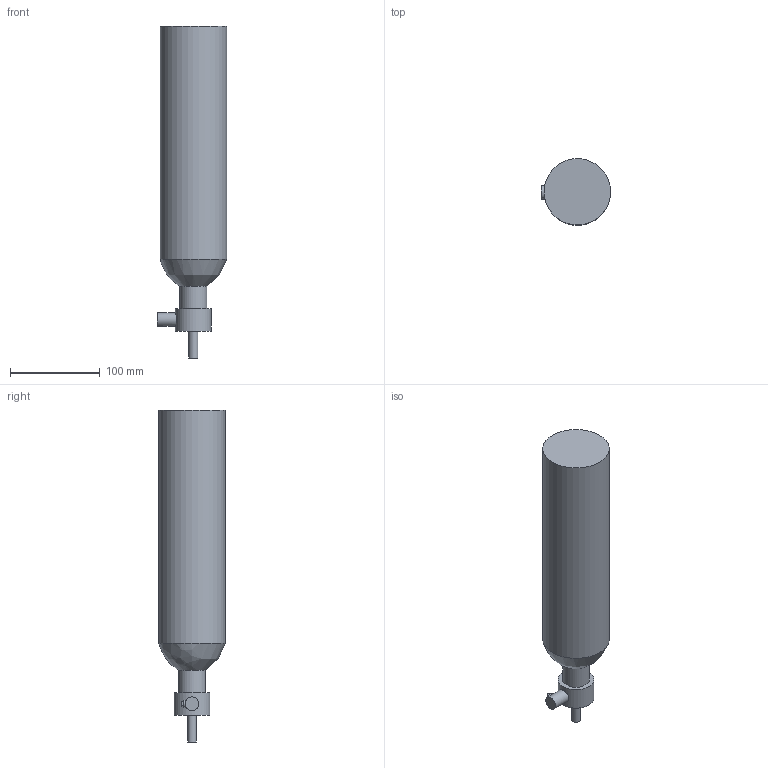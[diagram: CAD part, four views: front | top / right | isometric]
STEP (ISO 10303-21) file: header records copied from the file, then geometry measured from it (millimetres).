
FILE_DESCRIPTION(/* description */ (''),/* implementation_level */ '2;1');
FILE_NAME(/* name */ 'D:\OneDrive - Vysoké učení technické v Brně\4-PROJEKTY\3_Pneumobil\3-PNEUCAR\CAD\STARTER KIT\Lahev.stp',/* time_stamp */ '2023-12-20T16:27:36+01:00',/* author */ ('Michalec'),/* organization */ (''),/* preprocessor_version */ 'ST-DEVELOPER v19',/* originating_system */ 'Autodesk Inventor 2023',/* authorisation */ '');
FILE_SCHEMA (('AUTOMOTIVE_DESIGN { 1 0 10303 214 3 1 1 }'));
Length unit declared in the file: millimetre
Products named in the file (1): flasa
Bounding box: 77 x 74 x 370 mm (x, y, z)
Volume: 1257539.2 mm3; surface area: 80843.4 mm2
Topology: 1 solids, 1 shells, 28 faces, 61 edges, 41 vertices
Faces by surface type: plane 16, cylinder 11, bspline 1
Full cylindrical faces by diameter (mm): 2.459 x1, 8 x1, 10 x1, 15 x1, 30 x1, 40 x1, 74 x1
Entity records: 1046 total; most frequent: CARTESIAN_POINT 304, DIRECTION 141, ORIENTED_EDGE 122, EDGE_CURVE 61, AXIS2_PLACEMENT_3D 55, VERTEX_POINT 41, EDGE_LOOP 34, LINE 31
